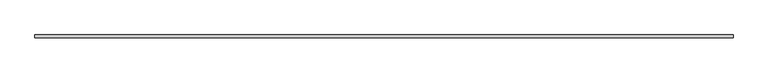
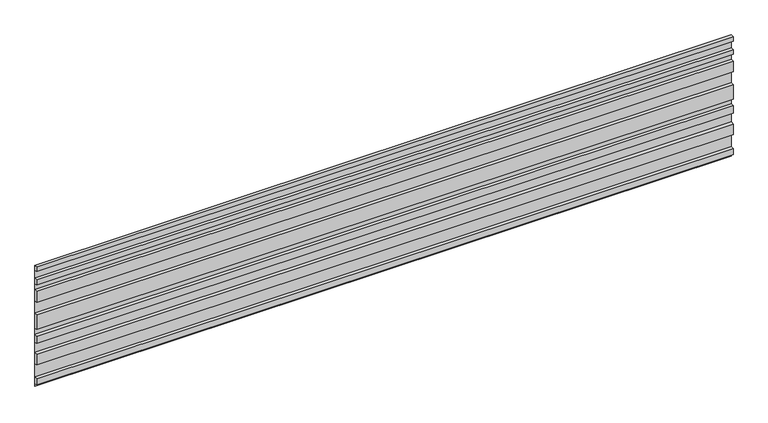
"""IFC4 building model written with IfcOpenShell, lengths in millimetres: plate geometry, ATELIERS 3S_NEW YORK QUEENS 980_HORIZONTAL : AZURO."""

import ifcopenshell
import ifcopenshell.guid

model = None  # the IFC model being written
_history = None  # IfcOwnerHistory: only IFC2X3 demands one
_inside = {}  # id of a spatial element -> (the spatial element, [elements in it])
_under = {}  # id of a project, library or spatial element -> (it, [spatial elements below it])
_declared = {}  # id of a project -> (the project, [libraries it declares])
_typed = {}  # id of a type object -> (the type object, [elements of that type])
_made_of = {}  # id of a material, layer set ... -> (it, [elements and type objects made of it])


def new_model(schema):
    """Start an empty IFC model of exactly this schema.

    Asked for "IFC4X3", IfcOpenShell would pick the latest addendum, in which some entities
    have other attributes; the version numbers below select the first issue.
    IFC2X3 requires an IfcOwnerHistory on every rooted entity: one is made here for all.
    """
    global model, _history
    if schema == "IFC4X3":
        model = ifcopenshell.file(schema_version=(4, 3, 0, 0))
    else:
        model = ifcopenshell.file(schema=schema)
    _inside.clear()
    _under.clear()
    _declared.clear()
    _typed.clear()
    _made_of.clear()
    _history = None
    if model.schema == "IFC2X3":
        org = make("IfcOrganization", Name="unknown")
        user = make(
            "IfcPersonAndOrganization",
            ThePerson=make("IfcPerson", FamilyName="unknown"),
            TheOrganization=org,
        )
        app = make(
            "IfcApplication",
            ApplicationDeveloper=org,
            Version="unknown",
            ApplicationFullName="unknown",
            ApplicationIdentifier="unknown",
        )
        _history = make(
            "IfcOwnerHistory",
            OwningUser=user,
            OwningApplication=app,
            ChangeAction="ADDED",
            CreationDate=0,
        )
    return model


def make(cls, **values):
    """One entity of the class cls with the attributes given. An attribute that is None is left unset."""
    return model.create_entity(
        cls, **{name: value for name, value in values.items() if value is not None}
    )


def rooted(cls, **values):
    """An entity with a GlobalId (a new one), such as an element, a storey or a relation."""
    return make(cls, GlobalId=ifcopenshell.guid.new(), OwnerHistory=_history, **values)


def si_unit(unit_type, name, prefix=None):
    """IfcSIUnit, for example si_unit("LENGTHUNIT", "METRE", prefix="MILLI")."""
    return make("IfcSIUnit", UnitType=unit_type, Prefix=prefix, Name=name)


def assignment(units):
    """IfcUnitAssignment: the units of a project."""
    return None if units is None else make("IfcUnitAssignment", Units=units)


def point(xyz):
    """IfcCartesianPoint."""
    return None if xyz is None else make("IfcCartesianPoint", Coordinates=xyz)


def direction(xyz):
    """IfcDirection."""
    return None if xyz is None else make("IfcDirection", DirectionRatios=xyz)


def frame(location, z_axis=None, x_axis=None):
    """IfcAxis2Placement3D, a coordinate frame: its origin and axes. An axis left out is left unset."""
    return make(
        "IfcAxis2Placement3D",
        Location=point(location),
        Axis=direction(z_axis),
        RefDirection=direction(x_axis),
    )


def origin():
    """The frame at (0, 0, 0) with its axes left unset."""
    return frame((0.0, 0.0, 0.0))


def place(relative_to, where):
    """IfcLocalPlacement: puts the frame where relative to a parent placement (None: the world)."""
    return make(
        "IfcLocalPlacement", PlacementRelTo=relative_to, RelativePlacement=where
    )


def context(
    kind, dimensions, precision=None, world=None, true_north=None, identifier=None
):
    """IfcGeometricRepresentationContext, for example the 3D "Model" context."""
    return make(
        "IfcGeometricRepresentationContext",
        ContextIdentifier=identifier,
        ContextType=kind,
        CoordinateSpaceDimension=dimensions,
        Precision=precision,
        WorldCoordinateSystem=world,
        TrueNorth=true_north,
    )


def project(units=None, contexts=None):
    """IfcProject with its units and contexts."""
    return rooted(
        "IfcProject",
        Name="project",
        RepresentationContexts=contexts,
        UnitsInContext=assignment(units),
    )


def spatial(cls, under=None, at=None, **own):
    """A site, building, storey or space (cls), placed at a placement, below another one or the project."""
    s = rooted(cls, ObjectPlacement=at, **own)
    if under is not None:
        _under.setdefault(under.id(), (under, []))[1].append(s)
    return s


def polyline(points):
    """IfcPolyline through the points."""
    return make("IfcPolyline", Points=[point(p) for p in points])


def outline(outer, holes=None, kind="AREA"):
    """IfcArbitraryClosedProfileDef: a profile drawn as a closed curve; with holes, ...WithVoids."""
    if holes is None:
        return make("IfcArbitraryClosedProfileDef", ProfileType=kind, OuterCurve=outer)
    return make(
        "IfcArbitraryProfileDefWithVoids",
        ProfileType=kind,
        OuterCurve=outer,
        InnerCurves=holes,
    )


def extrude(swept, where, along, depth):
    """IfcExtrudedAreaSolid: the profile swept, set in the frame where, extruded along a direction by depth."""
    return make(
        "IfcExtrudedAreaSolid",
        SweptArea=swept,
        Position=where,
        ExtrudedDirection=direction(along),
        Depth=depth,
    )


def shape(context_of_items, identifier, shape_type, items):
    """IfcShapeRepresentation: the items that make up one representation, for example the "Body"."""
    return make(
        "IfcShapeRepresentation",
        ContextOfItems=context_of_items,
        RepresentationIdentifier=identifier,
        RepresentationType=shape_type,
        Items=items,
    )


def source(mapping_origin, context_of_items, identifier, shape_type, items):
    """IfcRepresentationMap: a shape defined once, which mapped items show again and again."""
    return make(
        "IfcRepresentationMap",
        MappingOrigin=mapping_origin,
        MappedRepresentation=shape(context_of_items, identifier, shape_type, items),
    )


def transform(
    local_origin,
    x_axis=None,
    y_axis=None,
    z_axis=None,
    scale=None,
    scale2=None,
    scale3=None,
    uniform=True,
):
    """IfcCartesianTransformationOperator3D, or its non-uniform kind. x_axis, y_axis, z_axis: its Axis1, 2, 3."""
    if uniform:
        return make(
            "IfcCartesianTransformationOperator3D",
            Axis1=direction(x_axis),
            Axis2=direction(y_axis),
            LocalOrigin=point(local_origin),
            Scale=scale,
            Axis3=direction(z_axis),
        )
    return make(
        "IfcCartesianTransformationOperator3DnonUniform",
        Axis1=direction(x_axis),
        Axis2=direction(y_axis),
        LocalOrigin=point(local_origin),
        Scale=scale,
        Axis3=direction(z_axis),
        Scale2=scale2,
        Scale3=scale3,
    )


def mapped(mapping_source, mapping_target):
    """IfcMappedItem: shows the shape of a source again, moved by a transform."""
    return make(
        "IfcMappedItem", MappingSource=mapping_source, MappingTarget=mapping_target
    )


def made_of(thing, what):
    """Note that an element or type object is made of a material, layer set ...; save() writes the relation."""
    if what is not None:
        _made_of.setdefault(what.id(), (what, []))[1].append(thing)
    return thing


def element(
    cls,
    number,
    at=None,
    inside=None,
    cuts=None,
    type_object=None,
    material=None,
    context=None,
    identifier="Body",
    shape_type=None,
    held_by="IfcProductDefinitionShape",
    body=None,
    shapes=None,
    **own,
):
    """One element of the class cls, such as IfcWall. Its Tag is "e" and its number.

    at: its placement. inside: the storey or other place that contains it. cuts: it is an
    opening in that element (IfcRelVoidsElement). A single representation is given by context,
    identifier, shape_type and body (its items); several are given by shapes. held_by: the class
    of the entity that holds the representations. save() writes the other relations.
    """
    e = rooted(cls, Tag="e%d" % number, ObjectPlacement=at, **own)
    if body is not None:
        shapes = [shape(context, identifier, shape_type, body)]
    if shapes is not None:
        e.Representation = make(held_by, Representations=shapes)
    if inside is not None:
        _inside.setdefault(inside.id(), (inside, []))[1].append(e)
    if cuts is not None:
        rooted(
            "IfcRelVoidsElement", RelatingBuildingElement=cuts, RelatedOpeningElement=e
        )
    if type_object is not None:
        _typed.setdefault(type_object.id(), (type_object, []))[1].append(e)
    return made_of(e, material)


def aggregate(whole, parts):
    """IfcRelAggregates: a whole, such as a stair, and the parts it consists of."""
    return rooted("IfcRelAggregates", RelatingObject=whole, RelatedObjects=parts)


def save(model, path):
    """Write the relations noted so far, then the file.

    IfcRelAggregates (storeys below a building ...), IfcRelContainedInSpatialStructure (elements
    in a storey), IfcRelDefinesByType, IfcRelAssociatesMaterial and IfcRelDeclares: one each for
    every whole, place, type object, material and project.
    """
    for whole, parts in _under.values():
        aggregate(whole, parts)
    for where, things in _inside.values():
        rooted(
            "IfcRelContainedInSpatialStructure",
            RelatedElements=things,
            RelatingStructure=where,
        )
    for kind, things in _typed.values():
        rooted("IfcRelDefinesByType", RelatedObjects=things, RelatingType=kind)
    for what, things in _made_of.values():
        rooted("IfcRelAssociatesMaterial", RelatedObjects=things, RelatingMaterial=what)
    for by, libraries in _declared.values():
        rooted("IfcRelDeclares", RelatingContext=by, RelatedDefinitions=libraries)
    model.write(path)


def plate_855ca4f3(model_context):
    return source(origin(), model_context, "Body", "SweptSolid", [
        extrude(outline(polyline([(-20.75, 23.2118773), (-20.75, 69.341202), (-0.75, 72.8677416), (-0.75, 172.2384169), (-20.75, 175.7649565), (-20.75, 256.3942812), (-0.75, 259.9208208), (-0.75, 334.2914961), (-20.75, 337.8180357), (-20.75, 393.4473604), (-0.75, 396.9739), (-0.75, 441.3445753), (-20.75, 444.8711149), (-20.75, 555.5004397), (-0.75, 559.0269793), (-0.75, 648.3976546), (-20.75, 651.9241942), (-20.75, 732.5535189), (-0.75, 736.0800585), (-0.75, 780.4507338), (-20.75, 783.9772734), (-20.75, 819.6065981), (-0.75, 823.1331377), (-0.75, 882.503813), (-20.75, 886.0303526), (-20.75, 920.0), (0.0, 920.0), (0.0, 0.0), (-0.8, 0.0), (-0.8, 19.694154), (-20.75, 23.2118773)])), frame((-2500.0, 0.0, 0.0), z_axis=(1.0, 0.0, 0.0), x_axis=(0.0, 1.0, 0.0)), (0.0, 0.0, 1.0), 5000.0),
    ])


if __name__ == "__main__":
    model = new_model("IFC4")
    model_context = context("Model", 3, world=origin())
    ifc_project = project(units=[si_unit("LENGTHUNIT", "METRE", prefix="MILLI")], contexts=[model_context])
    site = spatial("IfcSite", under=ifc_project)
    building = spatial("IfcBuilding", under=site)
    placement = place(None, origin())
    plate_shape = plate_855ca4f3(model_context)
    element("IfcPlate", 1, ObjectType="ATELIERS 3S_NEW YORK QUEENS 980_HORIZONTAL : AZURO", at=placement, inside=building, context=model_context, shape_type="MappedRepresentation", body=[
        mapped(plate_shape, transform((0.0, 0.0, 0.0), x_axis=(1.0, 0.0, 0.0), y_axis=(0.0, 1.0, 0.0), z_axis=(0.0, 0.0, 1.0))),
    ])
    save(model, "model.ifc")
